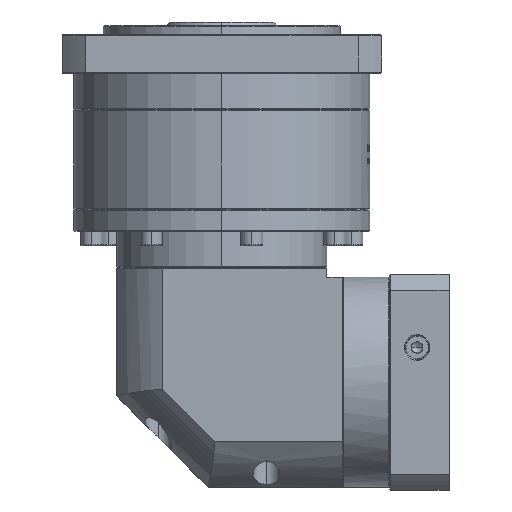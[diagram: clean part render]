
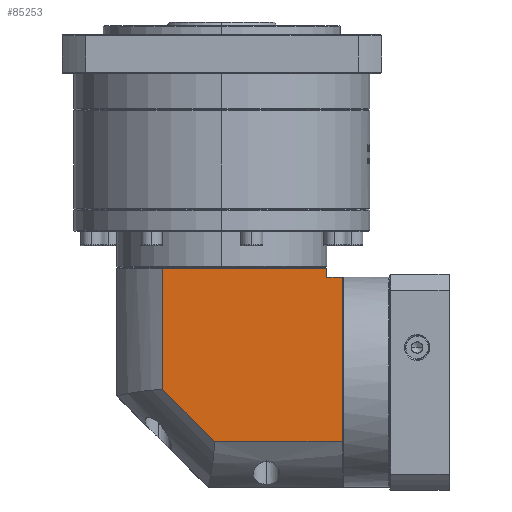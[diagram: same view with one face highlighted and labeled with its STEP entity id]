
A CAD part, left-side view. The second image highlights one B-rep face of the part: STEP entity #85253.
In plain terms, the highlighted planar face has unit normal (-1, 0, 0).
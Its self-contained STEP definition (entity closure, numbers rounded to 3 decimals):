
#1272 = VERTEX_POINT ( 'NONE', #100969 ) ;
#1418 = EDGE_CURVE ( 'NONE', #5769, #132742, #110806, .T. ) ;
#2285 = CARTESIAN_POINT ( 'NONE',  ( -41.905, 19.455, 148. ) ) ;
#5524 = CARTESIAN_POINT ( 'NONE',  ( -41.905, 72.893, 148. ) ) ;
#5769 = VERTEX_POINT ( 'NONE', #129020 ) ;
#6198 = CARTESIAN_POINT ( 'NONE',  ( -41.905, -42.107, 237.9 ) ) ;
#11865 = DIRECTION ( 'NONE',  ( 0., 0., 1. ) ) ;
#14554 = CARTESIAN_POINT ( 'NONE',  ( -41.905, -50.507, 249.4 ) ) ;
#15570 = DIRECTION ( 'NONE',  ( 0., 0., -1. ) ) ;
#16614 = LINE ( 'NONE', #82288, #102920 ) ;
#16683 = EDGE_CURVE ( 'NONE', #87693, #102338, #21429, .T. ) ;
#20503 = ORIENTED_EDGE ( 'NONE', *, *, #101753, .F. ) ;
#20736 = ORIENTED_EDGE ( 'NONE', *, *, #1418, .T. ) ;
#21429 = LINE ( 'NONE', #5524, #49525 ) ;
#24479 = DIRECTION ( 'NONE',  ( 1., 0., 0. ) ) ;
#24773 = CARTESIAN_POINT ( 'NONE',  ( -41.905, -50.507, 148. ) ) ;
#33863 = ORIENTED_EDGE ( 'NONE', *, *, #80138, .F. ) ;
#34317 = VECTOR ( 'NONE', #143409, 1000. ) ;
#36463 = DIRECTION ( 'NONE',  ( 0., 1., 0. ) ) ;
#37850 = CARTESIAN_POINT ( 'NONE',  ( -41.905, -42.107, 237.9 ) ) ;
#40885 = VECTOR ( 'NONE', #15570, 1000. ) ;
#46302 = ORIENTED_EDGE ( 'NONE', *, *, #16683, .F. ) ;
#46326 = FACE_OUTER_BOUND ( 'NONE', #88060, .T. ) ;
#47100 = VERTEX_POINT ( 'NONE', #65918 ) ;
#49107 = PLANE ( 'NONE',  #78274 ) ;
#49353 = EDGE_CURVE ( 'NONE', #47100, #82513, #16614, .T. ) ;
#49525 = VECTOR ( 'NONE', #77190, 1000. ) ;
#50257 = EDGE_CURVE ( 'NONE', #102338, #1272, #124696, .T. ) ;
#51166 = VECTOR ( 'NONE', #11865, 1000. ) ;
#60104 = CARTESIAN_POINT ( 'NONE',  ( -41.905, 72.893, 249.4 ) ) ;
#65918 = CARTESIAN_POINT ( 'NONE',  ( -41.905, 47.793, 242.9 ) ) ;
#72498 = ORIENTED_EDGE ( 'NONE', *, *, #49353, .F. ) ;
#77190 = DIRECTION ( 'NONE',  ( 0., 1., 0. ) ) ;
#78274 = AXIS2_PLACEMENT_3D ( 'NONE', #60104, #24479, #36463 ) ;
#80138 = EDGE_CURVE ( 'NONE', #5769, #87693, #134719, .T. ) ;
#81009 = CARTESIAN_POINT ( 'NONE',  ( -41.905, 19.455, 148. ) ) ;
#82288 = CARTESIAN_POINT ( 'NONE',  ( -41.905, 72.893, 242.9 ) ) ;
#82513 = VERTEX_POINT ( 'NONE', #98470 ) ;
#82801 = DIRECTION ( 'NONE',  ( 0., -1., 0. ) ) ;
#85253 = ADVANCED_FACE ( 'NONE', ( #46326 ), #49107, .F. ) ;
#87251 = VECTOR ( 'NONE', #130265, 1000. ) ;
#87693 = VERTEX_POINT ( 'NONE', #24773 ) ;
#88060 = EDGE_LOOP ( 'NONE', ( #20503, #138572, #46302, #33863, #20736, #102997, #72498 ) ) ;
#89931 = DIRECTION ( 'NONE',  ( 0., 1., 0. ) ) ;
#94387 = LINE ( 'NONE', #106829, #34317 ) ;
#98470 = CARTESIAN_POINT ( 'NONE',  ( -41.905, -42.107, 242.9 ) ) ;
#100969 = CARTESIAN_POINT ( 'NONE',  ( -41.905, 47.793, 176.338 ) ) ;
#101753 = EDGE_CURVE ( 'NONE', #1272, #47100, #116905, .T. ) ;
#102338 = VERTEX_POINT ( 'NONE', #2285 ) ;
#102920 = VECTOR ( 'NONE', #82801, 1000. ) ;
#102997 = ORIENTED_EDGE ( 'NONE', *, *, #141595, .T. ) ;
#106829 = CARTESIAN_POINT ( 'NONE',  ( -41.905, -42.107, 122.9 ) ) ;
#110806 = LINE ( 'NONE', #6198, #153860 ) ;
#116905 = LINE ( 'NONE', #119262, #51166 ) ;
#119262 = CARTESIAN_POINT ( 'NONE',  ( -41.905, 47.793, 249.4 ) ) ;
#124696 = LINE ( 'NONE', #81009, #87251 ) ;
#129020 = CARTESIAN_POINT ( 'NONE',  ( -41.905, -50.507, 237.9 ) ) ;
#130265 = DIRECTION ( 'NONE',  ( 0., 0.707, 0.707 ) ) ;
#132742 = VERTEX_POINT ( 'NONE', #37850 ) ;
#134719 = LINE ( 'NONE', #14554, #40885 ) ;
#138572 = ORIENTED_EDGE ( 'NONE', *, *, #50257, .F. ) ;
#141595 = EDGE_CURVE ( 'NONE', #132742, #82513, #94387, .T. ) ;
#143409 = DIRECTION ( 'NONE',  ( 0., 0., 1. ) ) ;
#153860 = VECTOR ( 'NONE', #89931, 1000. ) ;
